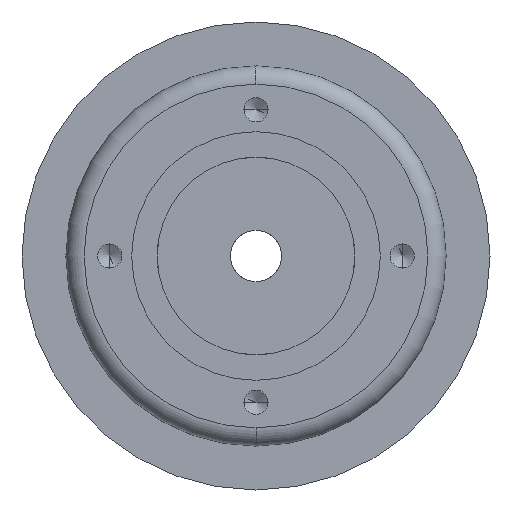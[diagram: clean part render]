
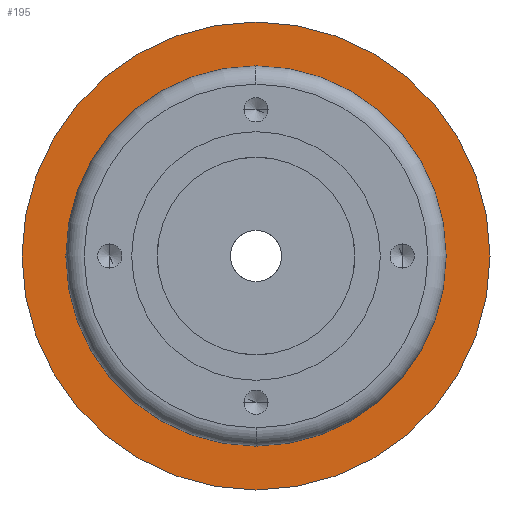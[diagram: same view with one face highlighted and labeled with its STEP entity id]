
A CAD part, left-side view. The second image highlights one B-rep face of the part: STEP entity #195.
In plain terms, the highlighted planar face has unit normal (-1, 0, 0).
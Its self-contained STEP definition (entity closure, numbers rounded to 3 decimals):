
#194 = EDGE_CURVE ( 'NONE', #239, #240, #1082, .T. ) ;
#195 = ADVANCED_FACE ( 'NONE', ( #1077, #1076 ), #1074, .F. ) ;
#196 = EDGE_LOOP ( 'NONE', ( #197, #198 ) ) ;
#197 = ORIENTED_EDGE ( 'NONE', *, *, #351, .F. ) ;
#198 = ORIENTED_EDGE ( 'NONE', *, *, #199, .F. ) ;
#199 = EDGE_CURVE ( 'NONE', #353, #352, #903, .T. ) ;
#200 = EDGE_LOOP ( 'NONE', ( #201, #202 ) ) ;
#201 = ORIENTED_EDGE ( 'NONE', *, *, #273, .T. ) ;
#202 = ORIENTED_EDGE ( 'NONE', *, *, #194, .T. ) ;
#239 = VERTEX_POINT ( 'NONE', #1242 ) ;
#240 = VERTEX_POINT ( 'NONE', #1241 ) ;
#273 = EDGE_CURVE ( 'NONE', #240, #239, #1339, .T. ) ;
#351 = EDGE_CURVE ( 'NONE', #352, #353, #1541, .T. ) ;
#352 = VERTEX_POINT ( 'NONE', #1537 ) ;
#353 = VERTEX_POINT ( 'NONE', #1536 ) ;
#903 = CIRCLE ( 'NONE', #1226, 20. ) ;
#1070 = DIRECTION ( 'NONE',  ( 0., 0., -1. ) ) ;
#1071 = DIRECTION ( 'NONE',  ( 1., 0., 0. ) ) ;
#1072 = CARTESIAN_POINT ( 'NONE',  ( 18.8, 20., 0. ) ) ;
#1073 = AXIS2_PLACEMENT_3D ( 'NONE', #1072, #1071, #1070 ) ;
#1074 = PLANE ( 'NONE',  #1073 ) ;
#1076 = FACE_OUTER_BOUND ( 'NONE', #200, .T. ) ;
#1077 = FACE_BOUND ( 'NONE', #196, .T. ) ;
#1078 = DIRECTION ( 'NONE',  ( 0., 0., 1. ) ) ;
#1079 = DIRECTION ( 'NONE',  ( -1., 0., 0. ) ) ;
#1080 = CARTESIAN_POINT ( 'NONE',  ( 18.8, 0., 0. ) ) ;
#1081 = AXIS2_PLACEMENT_3D ( 'NONE', #1080, #1079, #1078 ) ;
#1082 = CIRCLE ( 'NONE', #1081, 32. ) ;
#1226 = AXIS2_PLACEMENT_3D ( 'NONE', #1265, #1266, #1299 ) ;
#1241 = CARTESIAN_POINT ( 'NONE',  ( 18.8, 0., 32. ) ) ;
#1242 = CARTESIAN_POINT ( 'NONE',  ( 18.8, 0., -32. ) ) ;
#1265 = CARTESIAN_POINT ( 'NONE',  ( 18.8, 0., 0. ) ) ;
#1266 = DIRECTION ( 'NONE',  ( -1., 0., 0. ) ) ;
#1299 = DIRECTION ( 'NONE',  ( 0., 0., 1. ) ) ;
#1335 = DIRECTION ( 'NONE',  ( 0., 0., 1. ) ) ;
#1336 = DIRECTION ( 'NONE',  ( -1., 0., 0. ) ) ;
#1337 = CARTESIAN_POINT ( 'NONE',  ( 18.8, 0., 0. ) ) ;
#1338 = AXIS2_PLACEMENT_3D ( 'NONE', #1337, #1336, #1335 ) ;
#1339 = CIRCLE ( 'NONE', #1338, 32. ) ;
#1536 = CARTESIAN_POINT ( 'NONE',  ( 18.8, 0., -20. ) ) ;
#1537 = CARTESIAN_POINT ( 'NONE',  ( 18.8, 0., 20. ) ) ;
#1538 = DIRECTION ( 'NONE',  ( 0., 0., 1. ) ) ;
#1539 = DIRECTION ( 'NONE',  ( -1., 0., 0. ) ) ;
#1540 = AXIS2_PLACEMENT_3D ( 'NONE', #1604, #1539, #1538 ) ;
#1541 = CIRCLE ( 'NONE', #1540, 20. ) ;
#1604 = CARTESIAN_POINT ( 'NONE',  ( 18.8, 0., 0. ) ) ;
